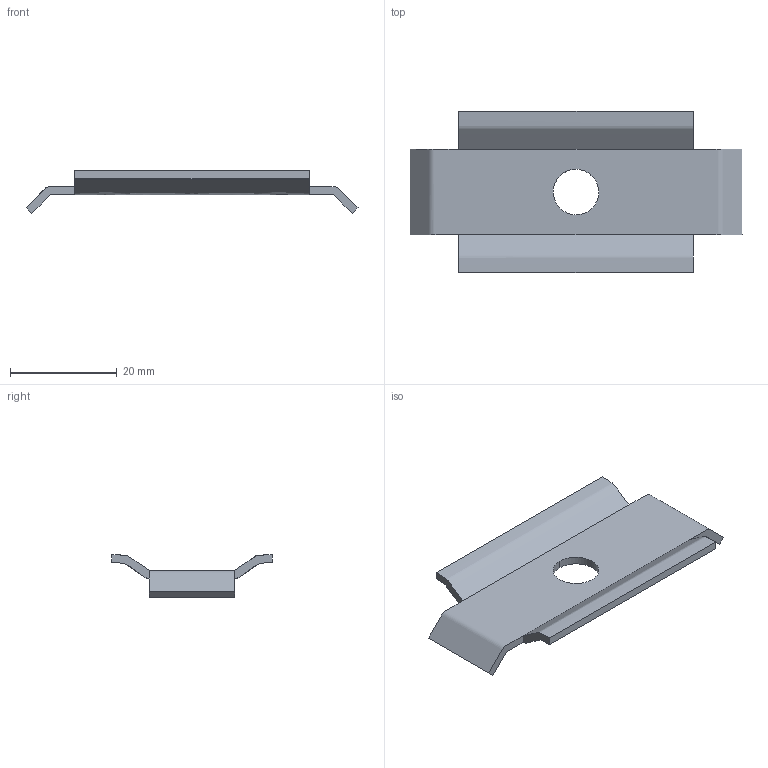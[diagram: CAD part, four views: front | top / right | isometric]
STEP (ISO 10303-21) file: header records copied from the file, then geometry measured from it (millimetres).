
FILE_DESCRIPTION(/* description */ (''),/* implementation_level */ '2;1');
FILE_NAME(/* name */ 'SVSM_P~1',/* time_stamp */ '2024-01-28T21:20:32+01:00',/* author */ (''),/* organization */ (''),/* preprocessor_version */ 'ST-DEVELOPER v16.5',/* originating_system */ '',/* authorisation */ '');
FILE_SCHEMA (('CONFIG_CONTROL_DESIGN'));
Length unit declared in the file: millimetre
Products named in the file (1): Document
Bounding box: 62.19 x 30.16 x 8.04 mm (x, y, z)
Surface area: 3734.6 mm2 (no closed solid volume)
Topology: 0 solids, 1 shells, 23 faces, 66 edges, 39 vertices
Faces by surface type: plane 17, bspline 4, cylinder 2
Entity records: 863 total; most frequent: CARTESIAN_POINT 384, ORIENTED_EDGE 119, EDGE_CURVE 66, VERTEX_POINT 39, B_SPLINE_CURVE_WITH_KNOTS 33, EDGE_LOOP 25, ADVANCED_FACE 23, FACE_OUTER_BOUND 23
